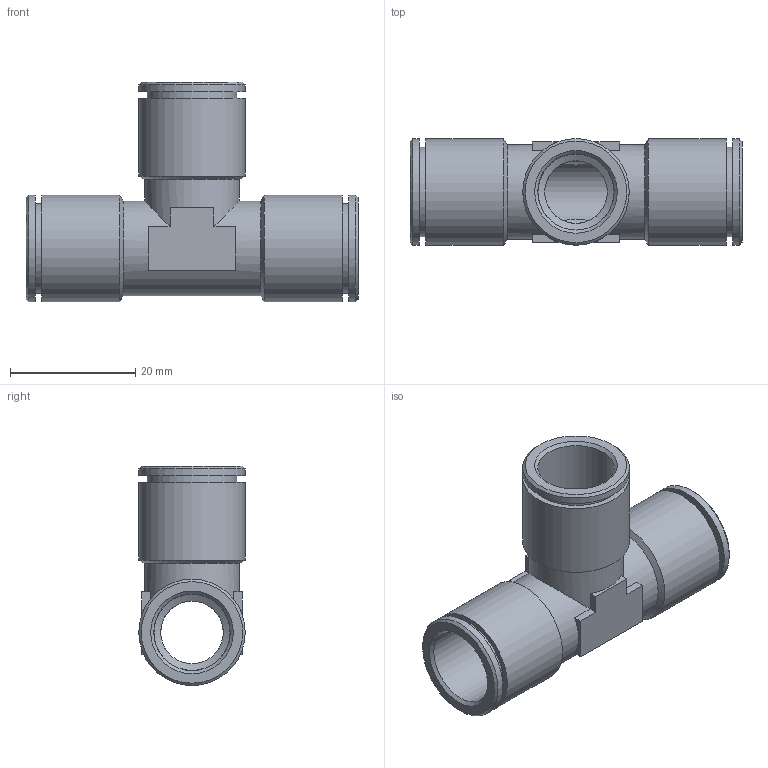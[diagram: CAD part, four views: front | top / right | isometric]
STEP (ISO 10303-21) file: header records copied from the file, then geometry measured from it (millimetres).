
FILE_DESCRIPTION(/* description */ (''),/* implementation_level */ '2;1');
FILE_NAME(/* name */ '200506-ES_STX05_12_28.06.16',/* time_stamp */ '2016-06-28T11:48:24+02:00',/* author */ (''),/* organization */ (''),/* preprocessor_version */ 'ST-DEVELOPER v16.5',/* originating_system */ 'HiCAD 2016 2101.0 Build 254',/* authorisation */ '');
FILE_SCHEMA (('AUTOMOTIVE_DESIGN { 1 0 10303 214 1 1 1 1 }'));
Length unit declared in the file: millimetre
Products named in the file (5): Root; R291212_SW16; DR12
Assembly tree (4 placements, depth 2):
  Root
    R291212_SW16
    DR12
    DR12
    DR12
Bounding box: 53 x 17 x 35 mm (x, y, z)
Volume: 5997.2 mm3; surface area: 9839 mm2
Topology: 4 solids, 4 shells, 86 faces, 185 edges, 115 vertices
Faces by surface type: plane 36, cylinder 27, cone 23
Full cylindrical faces by diameter (mm): 10 x2, 12.15 x3, 12.2 x3, 13.2 x3, 14.3 x3, 14.5 x3, 15.1 x2, 17 x6
Entity records: 3426 total; most frequent: CARTESIAN_POINT 400, DIRECTION 388, PRESENTATION_STYLE_ASSIGNMENT 254, COLOUR_RGB 252, DRAUGHTING_PRE_DEFINED_CURVE_FONT 250, CURVE_STYLE 250, OVER_RIDING_STYLED_ITEM 250, ORIENTED_EDGE 250
